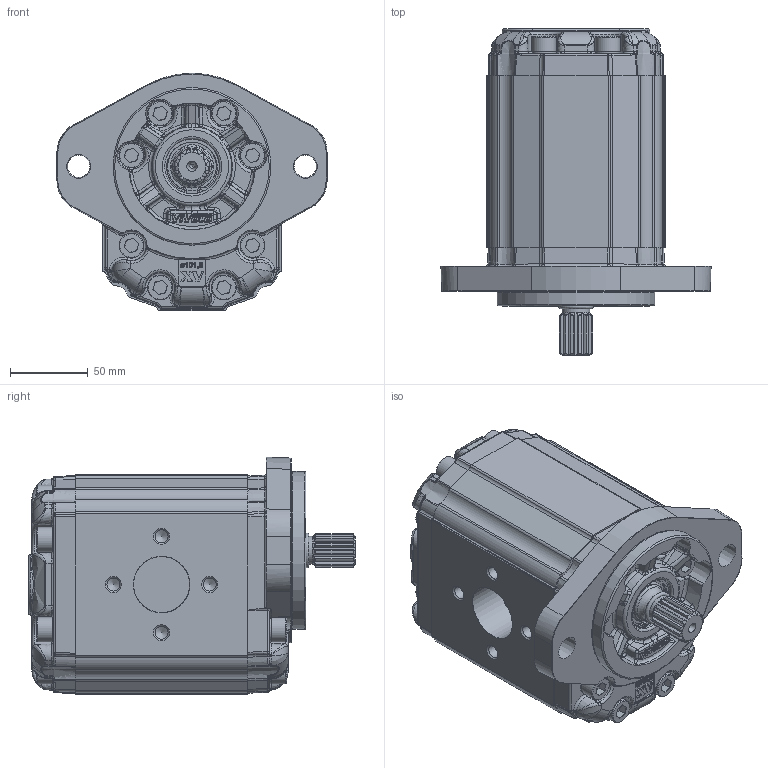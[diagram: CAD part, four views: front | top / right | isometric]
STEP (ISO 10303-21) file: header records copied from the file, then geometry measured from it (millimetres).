
FILE_DESCRIPTION(/* description */ ('Unknown'),/* implementation_level */ '2;1');
FILE_NAME(/* name */ 'X3P8632ICCA',/* time_stamp */ '2021-03-29T11:50:15+02:00',/* author */ ('Unknown'),/* organization */ ('Unknown'),/* preprocessor_version */ 'ST-DEVELOPER v16.7',/* originating_system */ 'Solid Edge',/* authorisation */ 'Unknown');
FILE_SCHEMA (('AUTOMOTIVE_DESIGN {1 0 10303 214 3 1 1}'));
Products named in the file (5): X3P8632ICCA; X3P32; 3I; X3CCH111; XP331-A
Assembly tree (4 placements, depth 2):
  X3P8632ICCA
    X3P32
    3I
    X3CCH111
    XP331-A
Bounding box: 174 x 210.2 x 153 mm (x, y, z)
Volume: 2413365.4 mm3; surface area: 220726.8 mm2
Topology: 4 solids, 21 shells, 3062 faces, 7898 edges, 4993 vertices
Faces by surface type: bspline 1317, plane 876, cylinder 654, cone 105, torus 94, sphere 16
Full cylindrical faces by diameter (mm): 2 x2, 8.376 x8, 10 x16, 15.8 x16, 16 x16, 18 x2, 24.98 x1, 25 x2, 25.968 x1, 28.16 x1, 31.293 x1, 32.742 x1, 34.956 x1, 35 x1, 35.2 x1, 36 x2, 37 x1, 101.6 x1
Entity records: 162906 total; most frequent: CARTESIAN_POINT 82491, ORIENTED_EDGE 15348, EDGE_CURVE 7674, DIRECTION 6756, B_SPLINE_CURVE_WITH_KNOTS 4985, VERTEX_POINT 4932, FACE_BOUND 3354, EDGE_LOOP 3344
